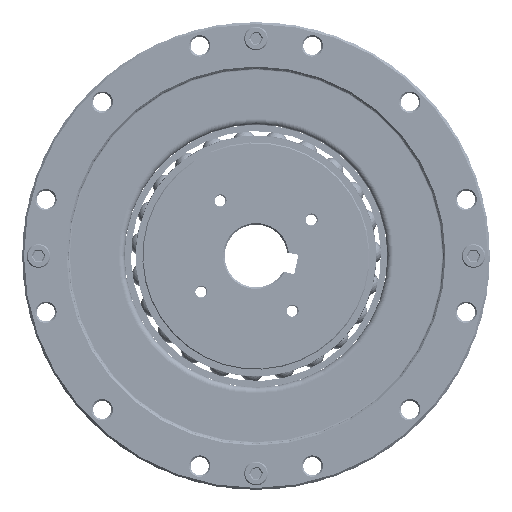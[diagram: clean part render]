
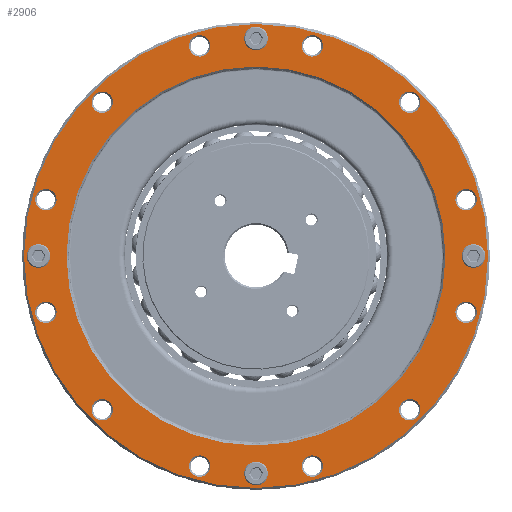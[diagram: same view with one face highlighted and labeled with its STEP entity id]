
A CAD part, front view. The second image highlights one B-rep face of the part: STEP entity #2906.
In plain terms, the highlighted planar face has unit normal (0, -1, 0).
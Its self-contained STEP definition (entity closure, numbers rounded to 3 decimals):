
#1204=FACE_BOUND('',#4614,.T.);
#1205=FACE_BOUND('',#4615,.T.);
#1206=FACE_BOUND('',#4616,.T.);
#1207=FACE_BOUND('',#4617,.T.);
#1208=FACE_BOUND('',#4618,.T.);
#1209=FACE_BOUND('',#4619,.T.);
#1210=FACE_BOUND('',#4620,.T.);
#1211=FACE_BOUND('',#4621,.T.);
#1212=FACE_BOUND('',#4622,.T.);
#1213=FACE_BOUND('',#4623,.T.);
#1214=FACE_BOUND('',#4624,.T.);
#1215=FACE_BOUND('',#4625,.T.);
#1216=FACE_BOUND('',#4626,.T.);
#1217=FACE_BOUND('',#4627,.T.);
#1218=FACE_BOUND('',#4628,.T.);
#1219=FACE_BOUND('',#4629,.T.);
#1220=FACE_BOUND('',#4630,.T.);
#1221=FACE_BOUND('',#4631,.T.);
#2133=CIRCLE('',#13658,57.5);
#2134=CIRCLE('',#13660,2.65);
#2135=CIRCLE('',#13661,2.65);
#2136=CIRCLE('',#13662,2.65);
#2137=CIRCLE('',#13663,2.65);
#2138=CIRCLE('',#13664,3.25);
#2139=CIRCLE('',#13665,3.25);
#2140=CIRCLE('',#13666,3.25);
#2141=CIRCLE('',#13667,3.25);
#2142=CIRCLE('',#13668,3.25);
#2143=CIRCLE('',#13669,3.25);
#2144=CIRCLE('',#13670,3.25);
#2145=CIRCLE('',#13671,3.25);
#2146=CIRCLE('',#13672,3.25);
#2147=CIRCLE('',#13673,3.25);
#2148=CIRCLE('',#13674,3.25);
#2149=CIRCLE('',#13675,3.25);
#2150=CIRCLE('',#13676,70.4);
#2906=ADVANCED_FACE('',(#1204,#1205,#1206,#1207,#1208,#1209,#1210,#1211,
#1212,#1213,#1214,#1215,#1216,#1217,#1218,#1219,#1220,#1221),#3666,.T.);
#3666=PLANE('',#13677);
#4614=EDGE_LOOP('',(#6527));
#4615=EDGE_LOOP('',(#6528));
#4616=EDGE_LOOP('',(#6529));
#4617=EDGE_LOOP('',(#6530));
#4618=EDGE_LOOP('',(#6531));
#4619=EDGE_LOOP('',(#6532));
#4620=EDGE_LOOP('',(#6533));
#4621=EDGE_LOOP('',(#6534));
#4622=EDGE_LOOP('',(#6535));
#4623=EDGE_LOOP('',(#6536));
#4624=EDGE_LOOP('',(#6537));
#4625=EDGE_LOOP('',(#6538));
#4626=EDGE_LOOP('',(#6539));
#4627=EDGE_LOOP('',(#6540));
#4628=EDGE_LOOP('',(#6541));
#4629=EDGE_LOOP('',(#6542));
#4630=EDGE_LOOP('',(#6543));
#4631=EDGE_LOOP('',(#6544));
#6527=ORIENTED_EDGE('',*,*,#10883,.T.);
#6528=ORIENTED_EDGE('',*,*,#10884,.T.);
#6529=ORIENTED_EDGE('',*,*,#10885,.T.);
#6530=ORIENTED_EDGE('',*,*,#10886,.T.);
#6531=ORIENTED_EDGE('',*,*,#10887,.T.);
#6532=ORIENTED_EDGE('',*,*,#10888,.T.);
#6533=ORIENTED_EDGE('',*,*,#10889,.T.);
#6534=ORIENTED_EDGE('',*,*,#10890,.T.);
#6535=ORIENTED_EDGE('',*,*,#10891,.T.);
#6536=ORIENTED_EDGE('',*,*,#10892,.T.);
#6537=ORIENTED_EDGE('',*,*,#10893,.T.);
#6538=ORIENTED_EDGE('',*,*,#10894,.T.);
#6539=ORIENTED_EDGE('',*,*,#10895,.T.);
#6540=ORIENTED_EDGE('',*,*,#10896,.T.);
#6541=ORIENTED_EDGE('',*,*,#10897,.T.);
#6542=ORIENTED_EDGE('',*,*,#10898,.T.);
#6543=ORIENTED_EDGE('',*,*,#10899,.T.);
#6544=ORIENTED_EDGE('',*,*,#10882,.F.);
#9424=VERTEX_POINT('',#26719);
#9425=VERTEX_POINT('',#26722);
#9426=VERTEX_POINT('',#26724);
#9427=VERTEX_POINT('',#26726);
#9428=VERTEX_POINT('',#26728);
#9429=VERTEX_POINT('',#26730);
#9430=VERTEX_POINT('',#26732);
#9431=VERTEX_POINT('',#26734);
#9432=VERTEX_POINT('',#26736);
#9433=VERTEX_POINT('',#26738);
#9434=VERTEX_POINT('',#26740);
#9435=VERTEX_POINT('',#26742);
#9436=VERTEX_POINT('',#26744);
#9437=VERTEX_POINT('',#26746);
#9438=VERTEX_POINT('',#26748);
#9439=VERTEX_POINT('',#26750);
#9440=VERTEX_POINT('',#26752);
#9441=VERTEX_POINT('',#26754);
#10882=EDGE_CURVE('',#9424,#9424,#2133,.T.);
#10883=EDGE_CURVE('',#9425,#9425,#2134,.T.);
#10884=EDGE_CURVE('',#9426,#9426,#2135,.T.);
#10885=EDGE_CURVE('',#9427,#9427,#2136,.T.);
#10886=EDGE_CURVE('',#9428,#9428,#2137,.T.);
#10887=EDGE_CURVE('',#9429,#9429,#2138,.T.);
#10888=EDGE_CURVE('',#9430,#9430,#2139,.T.);
#10889=EDGE_CURVE('',#9431,#9431,#2140,.T.);
#10890=EDGE_CURVE('',#9432,#9432,#2141,.T.);
#10891=EDGE_CURVE('',#9433,#9433,#2142,.T.);
#10892=EDGE_CURVE('',#9434,#9434,#2143,.T.);
#10893=EDGE_CURVE('',#9435,#9435,#2144,.T.);
#10894=EDGE_CURVE('',#9436,#9436,#2145,.T.);
#10895=EDGE_CURVE('',#9437,#9437,#2146,.T.);
#10896=EDGE_CURVE('',#9438,#9438,#2147,.T.);
#10897=EDGE_CURVE('',#9439,#9439,#2148,.T.);
#10898=EDGE_CURVE('',#9440,#9440,#2149,.T.);
#10899=EDGE_CURVE('',#9441,#9441,#2150,.T.);
#13658=AXIS2_PLACEMENT_3D('',#26718,#15455,#15456);
#13660=AXIS2_PLACEMENT_3D('',#26721,#15459,#15460);
#13661=AXIS2_PLACEMENT_3D('',#26723,#15461,#15462);
#13662=AXIS2_PLACEMENT_3D('',#26725,#15463,#15464);
#13663=AXIS2_PLACEMENT_3D('',#26727,#15465,#15466);
#13664=AXIS2_PLACEMENT_3D('',#26729,#15467,#15468);
#13665=AXIS2_PLACEMENT_3D('',#26731,#15469,#15470);
#13666=AXIS2_PLACEMENT_3D('',#26733,#15471,#15472);
#13667=AXIS2_PLACEMENT_3D('',#26735,#15473,#15474);
#13668=AXIS2_PLACEMENT_3D('',#26737,#15475,#15476);
#13669=AXIS2_PLACEMENT_3D('',#26739,#15477,#15478);
#13670=AXIS2_PLACEMENT_3D('',#26741,#15479,#15480);
#13671=AXIS2_PLACEMENT_3D('',#26743,#15481,#15482);
#13672=AXIS2_PLACEMENT_3D('',#26745,#15483,#15484);
#13673=AXIS2_PLACEMENT_3D('',#26747,#15485,#15486);
#13674=AXIS2_PLACEMENT_3D('',#26749,#15487,#15488);
#13675=AXIS2_PLACEMENT_3D('',#26751,#15489,#15490);
#13676=AXIS2_PLACEMENT_3D('',#26753,#15491,#15492);
#13677=AXIS2_PLACEMENT_3D('',#26755,#15493,#15494);
#15455=DIRECTION('',(0.,-1.,0.));
#15456=DIRECTION('',(0.,0.,-1.));
#15459=DIRECTION('',(0.,1.,0.));
#15460=DIRECTION('',(0.,0.,-1.));
#15461=DIRECTION('',(0.,1.,0.));
#15462=DIRECTION('',(0.,0.,-1.));
#15463=DIRECTION('',(0.,1.,0.));
#15464=DIRECTION('',(0.,0.,-1.));
#15465=DIRECTION('',(0.,1.,0.));
#15466=DIRECTION('',(0.,0.,-1.));
#15467=DIRECTION('',(0.,1.,0.));
#15468=DIRECTION('',(0.,0.,-1.));
#15469=DIRECTION('',(0.,1.,0.));
#15470=DIRECTION('',(0.,0.,-1.));
#15471=DIRECTION('',(0.,1.,0.));
#15472=DIRECTION('',(0.,0.,-1.));
#15473=DIRECTION('',(0.,1.,0.));
#15474=DIRECTION('',(0.,0.,-1.));
#15475=DIRECTION('',(0.,1.,0.));
#15476=DIRECTION('',(0.,0.,-1.));
#15477=DIRECTION('',(0.,1.,0.));
#15478=DIRECTION('',(0.,0.,-1.));
#15479=DIRECTION('',(0.,1.,0.));
#15480=DIRECTION('',(0.,0.,-1.));
#15481=DIRECTION('',(0.,1.,0.));
#15482=DIRECTION('',(0.,0.,-1.));
#15483=DIRECTION('',(0.,1.,0.));
#15484=DIRECTION('',(0.,0.,-1.));
#15485=DIRECTION('',(0.,1.,0.));
#15486=DIRECTION('',(0.,0.,-1.));
#15487=DIRECTION('',(0.,1.,0.));
#15488=DIRECTION('',(0.,0.,-1.));
#15489=DIRECTION('',(0.,1.,0.));
#15490=DIRECTION('',(0.,0.,-1.));
#15491=DIRECTION('',(0.,-1.,0.));
#15492=DIRECTION('',(0.,0.,-1.));
#15493=DIRECTION('',(0.,-1.,0.));
#15494=DIRECTION('',(0.,0.,-1.));
#26718=CARTESIAN_POINT('',(0.,0.,0.));
#26719=CARTESIAN_POINT('',(0.,0.,-57.5));
#26721=CARTESIAN_POINT('',(-66.,0.,0.));
#26722=CARTESIAN_POINT('',(-66.,0.,-2.65));
#26723=CARTESIAN_POINT('',(0.,0.,66.));
#26724=CARTESIAN_POINT('',(0.,0.,63.35));
#26725=CARTESIAN_POINT('',(66.,0.,0.));
#26726=CARTESIAN_POINT('',(66.,0.,-2.65));
#26727=CARTESIAN_POINT('',(0.,0.,-66.));
#26728=CARTESIAN_POINT('',(0.,0.,-68.65));
#26729=CARTESIAN_POINT('',(-17.082,0.,63.751));
#26730=CARTESIAN_POINT('',(-17.082,0.,60.501));
#26731=CARTESIAN_POINT('',(17.082,0.,63.751));
#26732=CARTESIAN_POINT('',(17.082,0.,60.501));
#26733=CARTESIAN_POINT('',(46.669,0.,46.669));
#26734=CARTESIAN_POINT('',(46.669,0.,43.419));
#26735=CARTESIAN_POINT('',(63.751,0.,17.082));
#26736=CARTESIAN_POINT('',(63.751,0.,13.832));
#26737=CARTESIAN_POINT('',(63.751,0.,-17.082));
#26738=CARTESIAN_POINT('',(63.751,0.,-20.332));
#26739=CARTESIAN_POINT('',(46.669,0.,-46.669));
#26740=CARTESIAN_POINT('',(46.669,0.,-49.919));
#26741=CARTESIAN_POINT('',(17.082,0.,-63.751));
#26742=CARTESIAN_POINT('',(17.082,0.,-67.001));
#26743=CARTESIAN_POINT('',(-17.082,0.,-63.751));
#26744=CARTESIAN_POINT('',(-17.082,0.,-67.001));
#26745=CARTESIAN_POINT('',(-46.669,0.,46.669));
#26746=CARTESIAN_POINT('',(-46.669,0.,43.419));
#26747=CARTESIAN_POINT('',(-63.751,0.,-17.082));
#26748=CARTESIAN_POINT('',(-63.751,0.,-20.332));
#26749=CARTESIAN_POINT('',(-46.669,0.,-46.669));
#26750=CARTESIAN_POINT('',(-46.669,0.,-49.919));
#26751=CARTESIAN_POINT('',(-63.751,0.,17.082));
#26752=CARTESIAN_POINT('',(-63.751,0.,13.832));
#26753=CARTESIAN_POINT('',(0.,0.,0.));
#26754=CARTESIAN_POINT('',(0.,0.,-70.4));
#26755=CARTESIAN_POINT('',(57.5,0.,0.));
